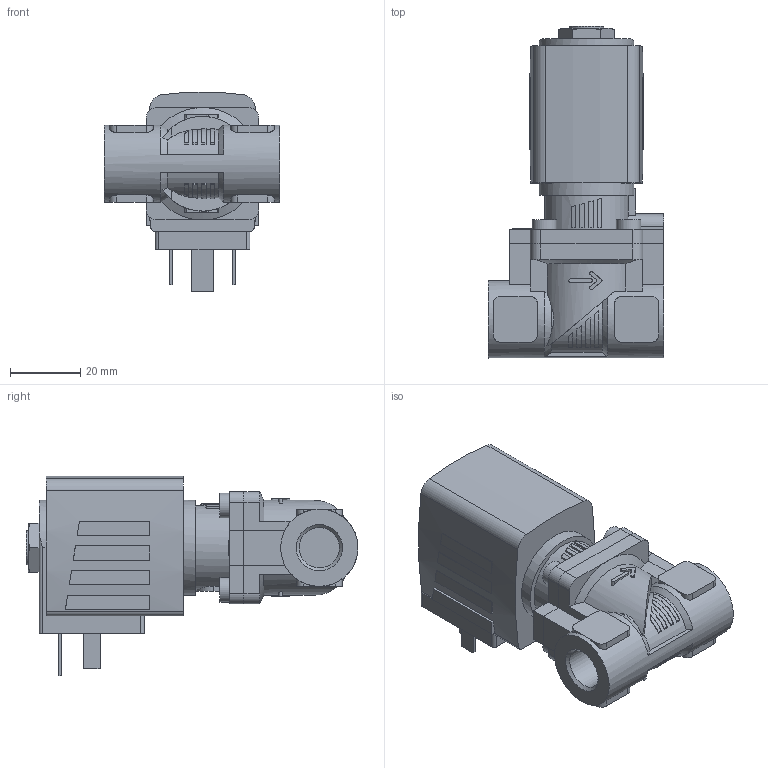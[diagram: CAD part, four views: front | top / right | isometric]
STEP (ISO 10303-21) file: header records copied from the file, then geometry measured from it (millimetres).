
FILE_DESCRIPTION(/* description */ ('STEP AP214'),/* implementation_level */ '2;1');
FILE_NAME(/* name */ '6281-346870-2_2-Way_Solenoid_Valve__Servo-assisted__General_Purpose',/* time_stamp */ '2024-06-21T16:32:00+02:00',/* author */ ('License CC BY-ND 4.0'),/* organization */ ('CADENAS'),/* preprocessor_version */ 'ST-DEVELOPER v19.3',/* originating_system */ 'PARTsolutions',/* authorisation */ ' ');
FILE_SCHEMA (('AUTOMOTIVE_DESIGN {1 0 10303 214 3 1 1}'));
Length unit declared in the file: millimetre
Products named in the file (4): 6281-346870-2/2-Way Solenoid Valve, Servo-assisted, General Purpose; 5281ev100VA2/2-Wege-Magnetventil mit Servomembran-Deckel   ; 6213-10G1/4VA-Gehaeuse-; AC10ex-5NA38-Plan-Coil
Assembly tree (3 placements, depth 2):
  6281-346870-2/2-Way Solenoid Valve, Servo-assisted, General Purpose
    5281ev100VA2/2-Wege-Magnetventil mit Servomembran-Deckel   
    6213-10G1/4VA-Gehaeuse-
    AC10ex-5NA38-Plan-Coil
Bounding box: 50 x 94.5 x 56.91 mm (x, y, z)
Volume: 93312.1 mm3; surface area: 21924.5 mm2
Topology: 3 solids, 3 shells, 333 faces, 843 edges, 556 vertices
Faces by surface type: plane 231, cylinder 87, cone 15
Full cylindrical faces by diameter (mm): 2.013 x1, 7 x4, 9.74 x1, 11.445 x2, 22 x1, 27 x1
Entity records: 11236 total; most frequent: CARTESIAN_POINT 1966, DIRECTION 1670, ORIENTED_EDGE 1636, EDGE_CURVE 818, AXIS2_PLACEMENT_3D 587, VERTEX_POINT 547, LINE 496, VECTOR 496
